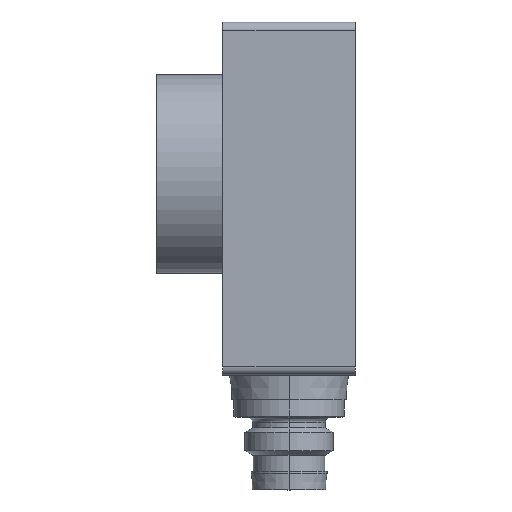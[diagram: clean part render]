
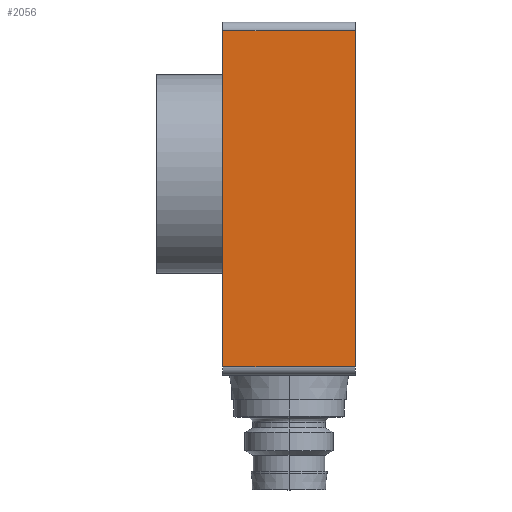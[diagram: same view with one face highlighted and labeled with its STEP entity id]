
A CAD part, left-side view. The second image highlights one B-rep face of the part: STEP entity #2056.
In plain terms, the highlighted planar face has unit normal (-1, 0, 0).
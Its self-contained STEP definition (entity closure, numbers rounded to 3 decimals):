
#2017=CARTESIAN_POINT('',(-10.05,-15.25,-6.0));
#2018=DIRECTION('',(-1.0,0.0,0.0));
#2019=DIRECTION('',(0.0,0.0,1.0));
#2020=AXIS2_PLACEMENT_3D('',#2017,#2018,#2019);
#2021=PLANE('',#2020);
#2022=CARTESIAN_POINT('',(-10.05,-15.25,6.0));
#2023=VERTEX_POINT('',#2022);
#2024=CARTESIAN_POINT('',(-10.05,15.25,6.0));
#2025=VERTEX_POINT('',#2024);
#2026=CARTESIAN_POINT('',(-10.05,-15.25,6.0));
#2027=DIRECTION('',(0.0,1.0,0.0));
#2028=VECTOR('',#2027,30.5);
#2029=LINE('',#2026,#2028);
#2030=EDGE_CURVE('',#2023,#2025,#2029,.T.);
#2031=ORIENTED_EDGE('',*,*,#2030,.T.);
#2032=CARTESIAN_POINT('',(-10.05,15.25,-6.0));
#2033=VERTEX_POINT('',#2032);
#2034=CARTESIAN_POINT('',(-10.05,15.25,-6.0));
#2035=DIRECTION('',(0.0,0.0,1.0));
#2036=VECTOR('',#2035,12.0);
#2037=LINE('',#2034,#2036);
#2038=EDGE_CURVE('',#2033,#2025,#2037,.T.);
#2039=ORIENTED_EDGE('',*,*,#2038,.F.);
#2040=CARTESIAN_POINT('',(-10.05,-15.25,-6.0));
#2041=VERTEX_POINT('',#2040);
#2042=CARTESIAN_POINT('',(-10.05,-15.25,-6.0));
#2043=DIRECTION('',(0.0,1.0,0.0));
#2044=VECTOR('',#2043,30.5);
#2045=LINE('',#2042,#2044);
#2046=EDGE_CURVE('',#2041,#2033,#2045,.T.);
#2047=ORIENTED_EDGE('',*,*,#2046,.F.);
#2048=CARTESIAN_POINT('',(-10.05,-15.25,-6.0));
#2049=DIRECTION('',(0.0,0.0,1.0));
#2050=VECTOR('',#2049,12.0);
#2051=LINE('',#2048,#2050);
#2052=EDGE_CURVE('',#2041,#2023,#2051,.T.);
#2053=ORIENTED_EDGE('',*,*,#2052,.T.);
#2054=EDGE_LOOP('',(#2031,#2039,#2047,#2053));
#2055=FACE_OUTER_BOUND('',#2054,.T.);
#2056=ADVANCED_FACE('',(#2055),#2021,.T.);
